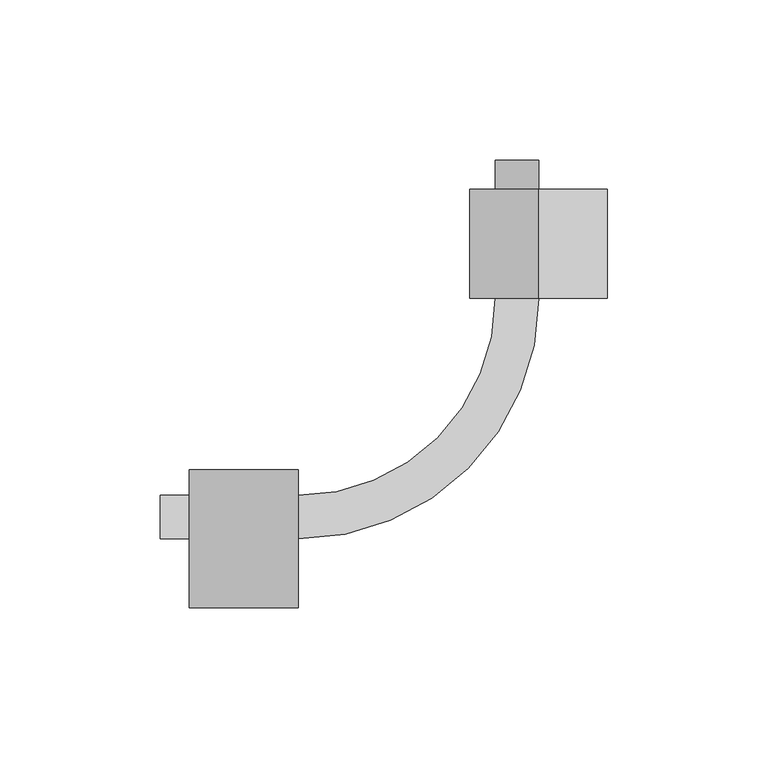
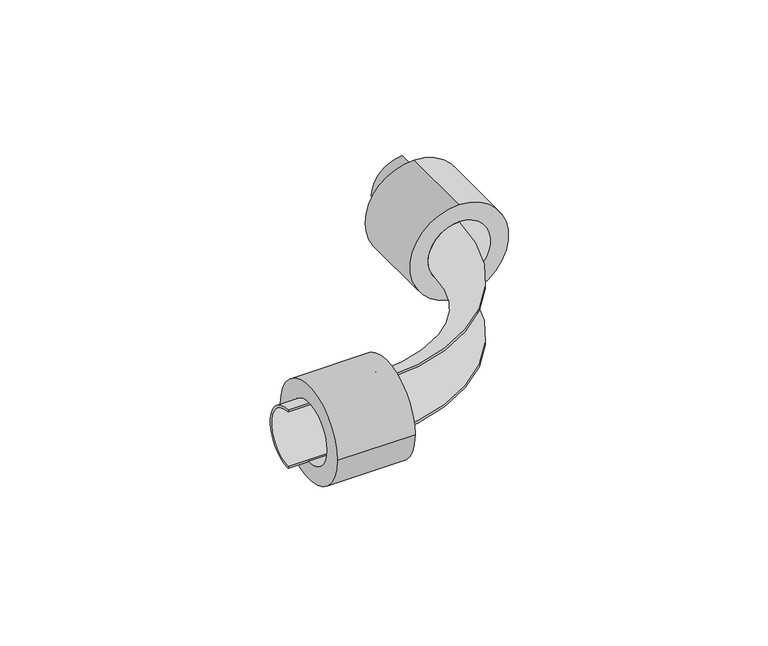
"""IFC4 building model written with IfcOpenShell, lengths in millimetres: pipe fitting geometry, REHAU_RAUTITAN_Pipe bend former sanitary : REHAU_RAUTITAN_Pipe bend former sanitary."""

from ifc_helpers import new_model, si_unit, point, frame, frame_2d, origin, origin_2d, place, context, project, spatial, polyline, circle_curve, ellipse_curve, trimmed, segment, composite_curve, outline, extrude, source, transform, mapped, element, save
from ifc_brep_helpers import plane_surface, cylinder_surface, revolved_surface, advanced_brep


def pipe_fitting_3f58b39c(model_context):
    return source(origin(), model_context, "Body", "SolidModel", [
        advanced_brep(
        [(-75.0, 0.0, 13.5), (-75.0, 0.0, -13.5), (-75.0, 0.0, -12.5), (-75.0, 0.0, 12.5), (0.0, 75.0, 13.5), (0.0, 75.0, 12.5), (0.0, 75.0, -12.5), (0.0, 75.0, -13.5)],
        [
            (0, 1, circle_curve(frame((-75.0, 0.0, 0.0), z_axis=(-1.0, 0.0, 0.0), x_axis=(0.0, 1.0, 0.0)), 13.5)),
            (1, 2),
            (2, 3, circle_curve(frame((-75.0, 0.0, 0.0), z_axis=(1.0, 0.0, 0.0), x_axis=(0.0, 1.0, 0.0)), 12.5)),
            (3, 0),
            (4, 5),
            (5, 6, circle_curve(frame((0.0, 75.0, 0.0), z_axis=(0.0, -1.0, 0.0), x_axis=(-1.0, 0.0, 0.0)), 12.5)),
            (6, 7),
            (7, 4, circle_curve(frame((0.0, 75.0, 0.0), z_axis=(0.0, 1.0, 0.0), x_axis=(-1.0, 0.0, 0.0)), 13.5)),
            (4, 0, circle_curve(frame((-75.0, 75.0, 13.5), z_axis=(0.0, 0.0, -1.0), x_axis=(0.0, -1.0, 0.0)), 75.0)),
            (3, 5, circle_curve(frame((-75.0, 75.0, 12.5), z_axis=(0.0, 0.0, 1.0), x_axis=(0.0, -1.0, 0.0)), 75.0)),
            (6, 2, circle_curve(frame((-75.0, 75.0, -12.5), z_axis=(0.0, 0.0, -1.0), x_axis=(0.0, -1.0, 0.0)), 75.0)),
            (1, 7, circle_curve(frame((-75.0, 75.0, -13.5), z_axis=(0.0, 0.0, 1.0), x_axis=(0.0, -1.0, 0.0)), 75.0)),
        ],
        [
            plane_surface(frame((-75.0, 0.0, 0.0), z_axis=(-1.0, 0.0, 0.0), x_axis=(0.0, 0.0, 1.0))),
            plane_surface(frame((0.0, 75.0, 0.0), z_axis=(0.0, 1.0, 0.0), x_axis=(0.0, 0.0, 1.0))),
            cylinder_surface(frame((-75.0, 75.0, 0.0), z_axis=(0.0, 0.0, 1.0), x_axis=(0.0, -1.0, 0.0)), 75.0),
            revolved_surface(trimmed(ellipse_curve(frame((-75.0, 0.0, 0.0), z_axis=(-1.0, 0.0, 0.0), x_axis=(0.0, 1.0, 0.0)), 13.5, 13.5), [point((-75.0, 0.0, 13.5))], [point((-75.0, 0.0, -13.5))], True, "CARTESIAN"), (-75.0, 75.0, 0.0), (0.0, 0.0, 1.0)),
            revolved_surface(trimmed(ellipse_curve(frame((-75.0, 0.0, 0.0), z_axis=(1.0, 0.0, 0.0), x_axis=(0.0, 1.0, 0.0)), 12.5, 12.5), [point((-75.0, 0.0, -12.5))], [point((-75.0, 0.0, 12.5))], True, "CARTESIAN"), (-75.0, 75.0, 0.0), (0.0, 0.0, 1.0)),
        ],
        [
            (0, [[1, 2, 3, 4]]),
            (1, [[5, 6, 7, 8]]),
            (2, [[9, -4, 10, -5]]),
            (2, [[11, -2, 12, -7]]),
            (3, [[-12, -1, -9, -8]]),
            (4, [[-10, -3, -11, -6]]),
        ],
    ),
        extrude(outline(composite_curve([segment(trimmed(circle_curve(origin_2d(), 21.5), [point((21.5, 0.0))], [point((-21.5, 0.0))], False, "CARTESIAN"), True, "CONTINUOUS"), segment(trimmed(circle_curve(origin_2d(), 21.5), [point((-21.5, 0.0))], [point((21.5, 0.0))], False, "CARTESIAN"), True, "CONTINUOUS")], self_intersect=False), holes=[composite_curve([segment(trimmed(circle_curve(origin_2d(), 13.65), [point((13.65, 0.0))], [point((-13.65, 0.0))], True, "CARTESIAN"), True, "CONTINUOUS"), segment(trimmed(circle_curve(origin_2d(), 13.65), [point((-13.65, 0.0))], [point((13.65, 0.0))], True, "CARTESIAN"), True, "CONTINUOUS")], self_intersect=False)]), frame((-109.0, 0.0, 0.0), z_axis=(1.0, 0.0, 0.0), x_axis=(0.0, 1.0, 0.0)), (0.0, 0.0, 1.0), 34.0),
        extrude(outline(composite_curve([segment(trimmed(circle_curve(origin_2d(), 21.5), [point((-21.5, 0.0))], [point((21.5, 0.0))], False, "CARTESIAN"), True, "CONTINUOUS"), segment(trimmed(circle_curve(origin_2d(), 21.5), [point((21.5, 0.0))], [point((-21.5, 0.0))], False, "CARTESIAN"), True, "CONTINUOUS")], self_intersect=False), holes=[composite_curve([segment(trimmed(circle_curve(origin_2d(), 13.65), [point((-13.65, 0.0))], [point((13.65, 0.0))], True, "CARTESIAN"), True, "CONTINUOUS"), segment(trimmed(circle_curve(origin_2d(), 13.65), [point((13.65, 0.0))], [point((-13.65, 0.0))], True, "CARTESIAN"), True, "CONTINUOUS")], self_intersect=False)]), frame((0.0, 75.0, 0.0), z_axis=(0.0, 1.0, 0.0), x_axis=(0.0, 0.0, 1.0)), (0.0, 0.0, 1.0), 34.0),
        extrude(outline(composite_curve([segment(polyline([(0.0, 12.5), (0.0, 13.5)]), True, "CONTINUOUS"), segment(trimmed(circle_curve(origin_2d(), 13.5), [point((0.0, 13.5))], [point((0.0, -13.5))], False, "CARTESIAN"), True, "CONTINUOUS"), segment(polyline([(0.0, -13.5), (0.0, -12.5)]), True, "CONTINUOUS"), segment(trimmed(circle_curve(origin_2d(), 12.5), [point((0.0, -12.5))], [point((0.0, 12.5))], True, "CARTESIAN"), True, "CONTINUOUS")], self_intersect=False)), frame((-118.0, 0.0, 0.0), z_axis=(1.0, 0.0, 0.0), x_axis=(0.0, 1.0, 0.0)), (0.0, 0.0, 1.0), 43.0),
        extrude(outline(composite_curve([segment(polyline([(17.0015807, 0.0), (18.0015807, 0.0)]), True, "CONTINUOUS"), segment(trimmed(circle_curve(frame_2d((4.5015807, 0.0)), 13.5), [point((18.0015807, 0.0))], [point((-8.9984193, 0.0))], False, "CARTESIAN"), True, "CONTINUOUS"), segment(polyline([(-8.9984193, 0.0), (-7.9984193, 0.0)]), True, "CONTINUOUS"), segment(trimmed(circle_curve(frame_2d((4.5015807, 0.0)), 12.5), [point((-7.9984193, 0.0))], [point((17.0015807, 0.0))], True, "CARTESIAN"), True, "CONTINUOUS")], self_intersect=False)), frame((0.0, 75.0, 0.0), z_axis=(0.0, 1.0, 0.0), x_axis=(0.0, 0.0, 1.0)), (0.0, 0.0, 1.0), 43.0),
    ])


if __name__ == "__main__":
    model = new_model("IFC4")
    model_context = context("Model", 3, world=origin())
    ifc_project = project(units=[si_unit("LENGTHUNIT", "METRE", prefix="MILLI")], contexts=[model_context])
    site = spatial("IfcSite", under=ifc_project)
    building = spatial("IfcBuilding", under=site)
    placement = place(None, origin())
    pipe_fitting_shape = pipe_fitting_3f58b39c(model_context)
    element("IfcPipeFitting", 1, ObjectType="REHAU_RAUTITAN_Pipe bend former sanitary : REHAU_RAUTITAN_Pipe bend former sanitary", at=placement, inside=building, context=model_context, shape_type="MappedRepresentation", body=[
        mapped(pipe_fitting_shape, transform((0.0, 0.0, 0.0), x_axis=(1.0, 0.0, 0.0), y_axis=(0.0, 1.0, 0.0), z_axis=(0.0, 0.0, 1.0))),
    ])
    save(model, "model.ifc")
